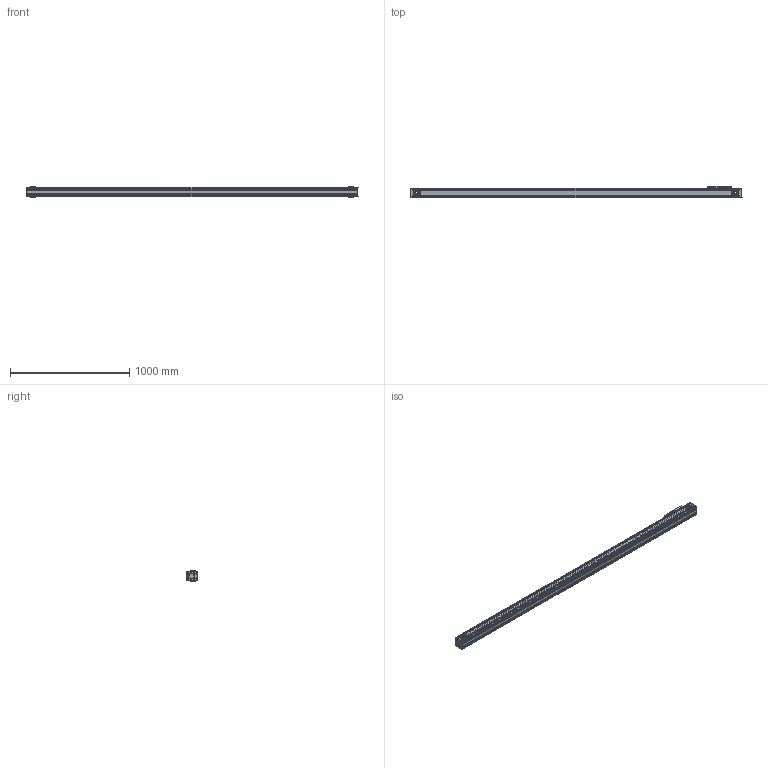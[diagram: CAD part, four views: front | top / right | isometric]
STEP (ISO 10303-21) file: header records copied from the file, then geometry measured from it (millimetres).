
FILE_DESCRIPTION (( 'STEP AP214' ), '1' );
FILE_NAME ('TKR80-2400A1-F0-R3-高速内滚轮直线模组.step', '2025-10-10T03:27:58', ( '' ), ( '' ), 'SwSTEP 2.0', 'SolidWorks 2024', '' );
FILE_SCHEMA (( 'AUTOMOTIVE_DESIGN' ));
Length unit declared in the file: millimetre
Products named in the file (3): TKR80-2400A1-F0-R3-高速内滚轮直线模组; TKR80-R3-02; TKR80-2400-R3-01
Assembly tree (2 placements, depth 2):
  TKR80-2400A1-F0-R3-高速内滚轮直线模组
    TKR80-2400-R3-01
    TKR80-R3-02
Bounding box: 2786 x 100 x 87 mm (x, y, z)
Volume: 8074597.5 mm3; surface area: 3152816.7 mm2
Topology: 1 solids, 52 shells, 2499 faces, 6775 edges, 4338 vertices
Faces by surface type: cylinder 1279, plane 770, torus 244, cone 182, sphere 24
Entity records: 120687 total; most frequent: CARTESIAN_POINT 31465, ORIENTED_EDGE 13382, DIRECTION 13179, EDGE_CURVE 6731, AXIS2_PLACEMENT_3D 5137, VERTEX_POINT 4338, VECTOR 2905, LINE 2905
